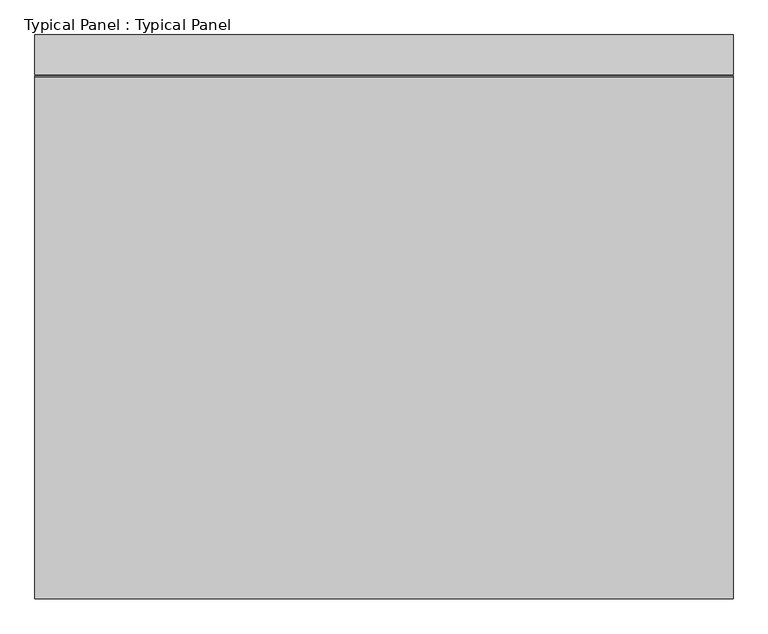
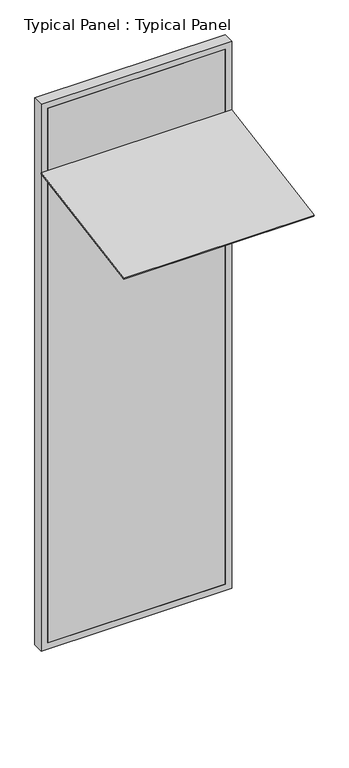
"""IFC4 building model written with IfcOpenShell, lengths in millimetres: plate geometry, Typical Panel : Typical Panel."""

from ifc_helpers import new_model, si_unit, frame, origin, place, context, project, spatial, polyline, outline, extrude, source, transform, mapped, element, save


def typical_panel_typical_panel_46f82321(model_context):
    return source(origin(), model_context, "Body", "SweptSolid", [
        extrude(outline(polyline([(0.0, -1000.0), (0.0, 0.0), (1317.1916898, 0.0), (1317.1916898, -1000.0), (0.0, -1000.0)])), frame((658.5958449, -988.0712712, 3316.5037448), z_axis=(0.0, -0.1736481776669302, 0.9848077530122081), x_axis=(-1.0, 0.0, 0.0)), (0.0, 0.0, 1.0), 10.0),
        extrude(outline(polyline([(0.0, -658.5958449), (0.0, 658.5958449), (4000.0, 658.5958449), (4000.0, -658.5958449), (0.0, -658.5958449)]), holes=[polyline([(45.0, 613.5958449), (45.0, -613.5958449), (3955.0, -613.5958449), (3955.0, 613.5958449), (45.0, 613.5958449)])]), frame((0.0, -1.5797986, 0.0), z_axis=(0.0, 1.0, 0.0), x_axis=(0.0, 0.0, 1.0)), (0.0, 0.0, 1.0), 75.0),
        extrude(outline(polyline([(613.5958449, -1.5797986), (-613.5958449, -1.5797986), (-613.5958449, 13.4202014), (613.5958449, 13.4202014), (613.5958449, -1.5797986)])), frame((0.0, 0.0, 45.0), z_axis=(0.0, 0.0, 1.0), x_axis=(1.0, 0.0, 0.0)), (0.0, 0.0, 1.0), 3910.0),
    ])


if __name__ == "__main__":
    model = new_model("IFC4")
    model_context = context("Model", 3, world=origin())
    ifc_project = project(units=[si_unit("LENGTHUNIT", "METRE", prefix="MILLI")], contexts=[model_context])
    site = spatial("IfcSite", under=ifc_project)
    building = spatial("IfcBuilding", under=site)
    placement = place(None, origin())
    typical_panel_typical_panel_shape = typical_panel_typical_panel_46f82321(model_context)
    element("IfcPlate", 1, ObjectType="Typical Panel : Typical Panel", at=placement, inside=building, context=model_context, shape_type="MappedRepresentation", body=[
        mapped(typical_panel_typical_panel_shape, transform((0.0, 0.0, 0.0), x_axis=(1.0, 0.0, 0.0), y_axis=(0.0, 1.0, 0.0), z_axis=(0.0, 0.0, 1.0))),
    ])
    save(model, "model.ifc")
